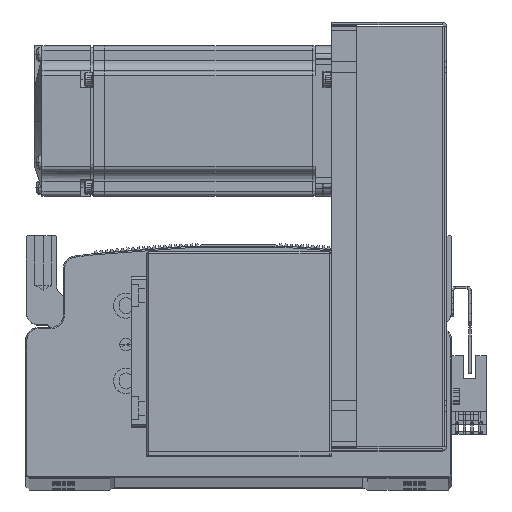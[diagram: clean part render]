
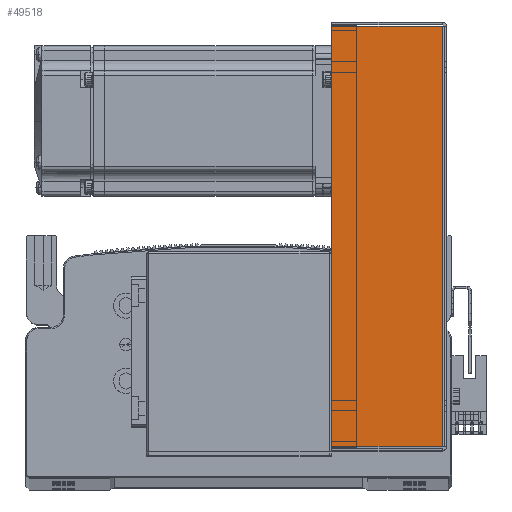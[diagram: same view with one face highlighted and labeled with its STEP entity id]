
A CAD part, top view. The second image highlights one B-rep face of the part: STEP entity #49518.
In plain terms, the highlighted planar face has unit normal (0, 0, 1).
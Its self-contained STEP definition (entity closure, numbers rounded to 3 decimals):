
#18841 = VERTEX_POINT ( 'NONE', #73802 ) ;
#18853 = VERTEX_POINT ( 'NONE', #73812 ) ;
#18865 = VERTEX_POINT ( 'NONE', #73831 ) ;
#18872 = VERTEX_POINT ( 'NONE', #73792 ) ;
#22109 = EDGE_CURVE ( 'NONE', #18853, #18841, #79386, .T. ) ;
#22139 = EDGE_CURVE ( 'NONE', #18872, #18865, #79548, .T. ) ;
#22145 = EDGE_CURVE ( 'NONE', #18865, #18841, #79492, .T. ) ;
#22154 = EDGE_CURVE ( 'NONE', #18872, #18853, #79536, .T. ) ;
#41490 = EDGE_LOOP ( 'NONE', ( #56495, #56589, #56542, #56577 ) ) ;
#48017 = CARTESIAN_POINT ( 'NONE',  ( 0., 0., 40.5 ) ) ;
#48055 = PLANE ( 'NONE',  #62402 ) ;
#48059 = DIRECTION ( 'NONE',  ( 0., 0., -1. ) ) ;
#48068 = DIRECTION ( 'NONE',  ( -1., 0., 0. ) ) ;
#49518 = ADVANCED_FACE ( 'NONE', ( #65328 ), #48055, .F. ) ;
#56495 = ORIENTED_EDGE ( 'NONE', *, *, #22154, .F. ) ;
#56542 = ORIENTED_EDGE ( 'NONE', *, *, #22145, .T. ) ;
#56577 = ORIENTED_EDGE ( 'NONE', *, *, #22109, .F. ) ;
#56589 = ORIENTED_EDGE ( 'NONE', *, *, #22139, .T. ) ;
#62402 = AXIS2_PLACEMENT_3D ( 'NONE', #48017, #48059, #48068 ) ;
#64273 = CARTESIAN_POINT ( 'NONE',  ( -83.793, 0., 40.5 ) ) ;
#64280 = DIRECTION ( 'NONE',  ( 0., 1., 0. ) ) ;
#64352 = DIRECTION ( 'NONE',  ( -1., 0., 0. ) ) ;
#64368 = CARTESIAN_POINT ( 'NONE',  ( 83.793, 0., 40.5 ) ) ;
#64379 = DIRECTION ( 'NONE',  ( 0., 1., 0. ) ) ;
#64384 = CARTESIAN_POINT ( 'NONE',  ( -84.5, 45., 40.5 ) ) ;
#64408 = CARTESIAN_POINT ( 'NONE',  ( 0., 0.737, 40.5 ) ) ;
#64429 = DIRECTION ( 'NONE',  ( -1., 0., 0. ) ) ;
#65328 = FACE_OUTER_BOUND ( 'NONE', #41490, .T. ) ;
#73792 = CARTESIAN_POINT ( 'NONE',  ( 83.793, 0.737, 40.5 ) ) ;
#73802 = CARTESIAN_POINT ( 'NONE',  ( -83.793, 45., 40.5 ) ) ;
#73812 = CARTESIAN_POINT ( 'NONE',  ( -83.793, 0.737, 40.5 ) ) ;
#73831 = CARTESIAN_POINT ( 'NONE',  ( 83.793, 45., 40.5 ) ) ;
#79386 = LINE ( 'NONE', #64273, #79437 ) ;
#79437 = VECTOR ( 'NONE', #64280, 1000. ) ;
#79492 = LINE ( 'NONE', #64384, #79520 ) ;
#79518 = VECTOR ( 'NONE', #64379, 1000. ) ;
#79520 = VECTOR ( 'NONE', #64352, 1000. ) ;
#79536 = LINE ( 'NONE', #64408, #79579 ) ;
#79548 = LINE ( 'NONE', #64368, #79518 ) ;
#79579 = VECTOR ( 'NONE', #64429, 1000. ) ;
